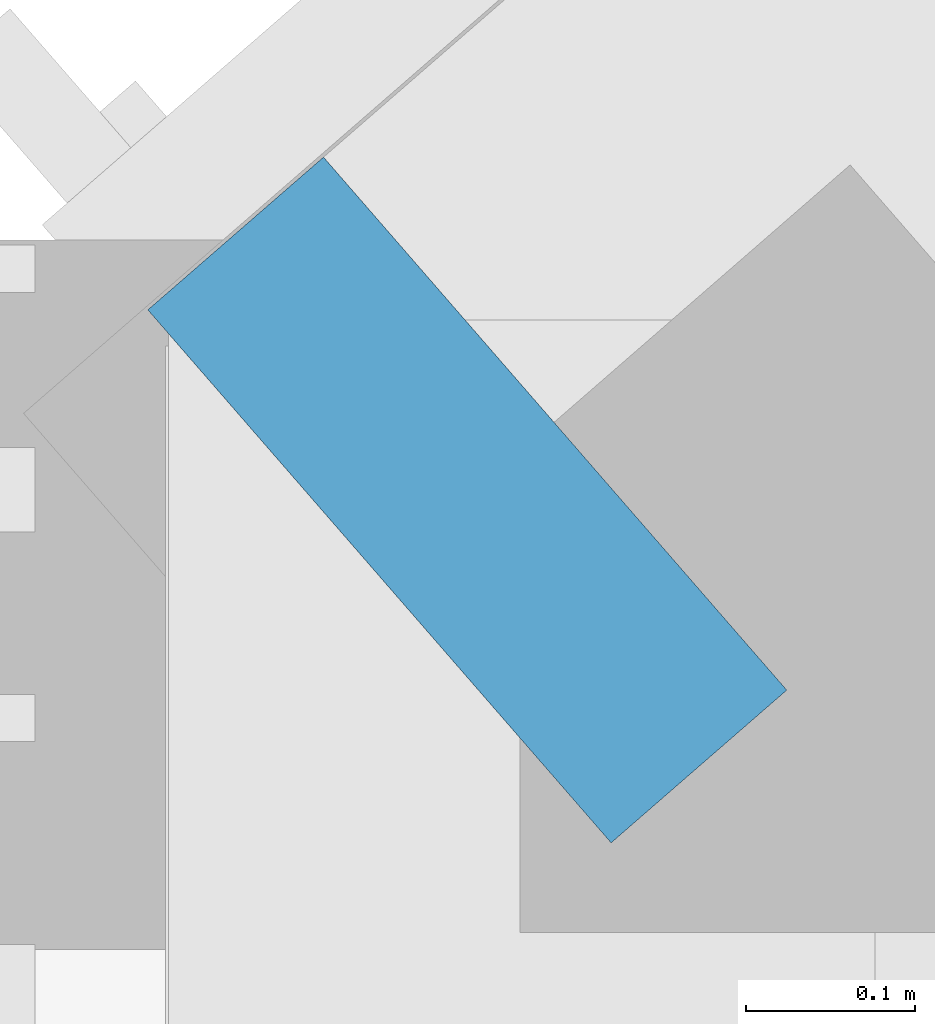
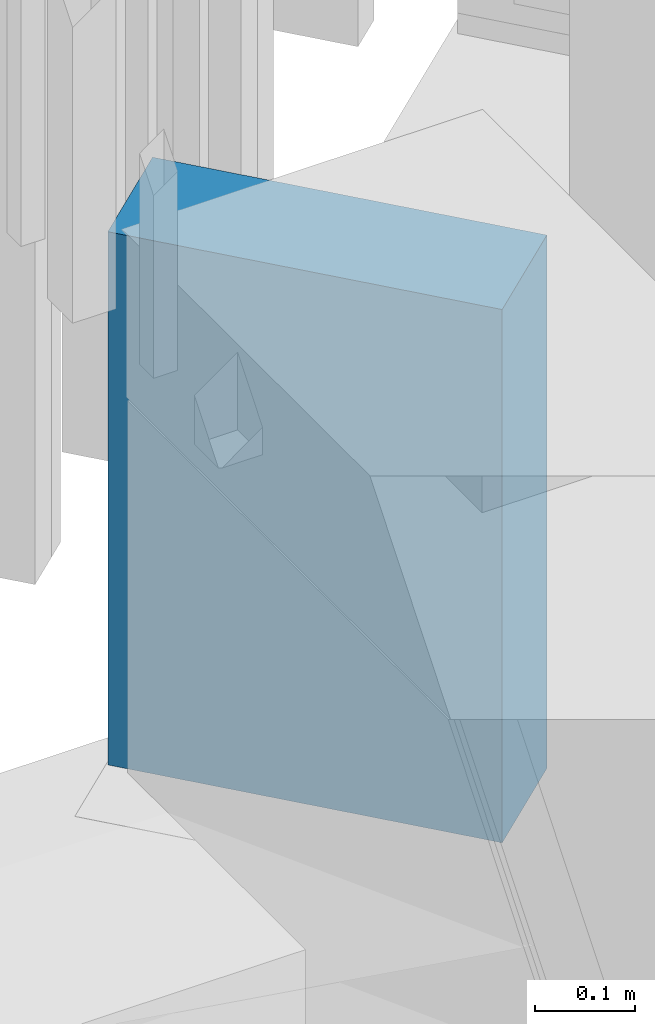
# One storey, part 25 of 390: 1 wall.
"""IFC2X3 building model written with IfcOpenShell, lengths in millimetres."""

from ifc_helpers import new_model, entity, si_unit, converted_unit, derived_unit, money_unit, direction, frame, origin_with_axes, place, context, subcontext, project, spatial, polyline, outline, extrude, material, layer, layer_set, layer_usage, type_object, element, save


model = new_model("IFC2X3")

# Units and contexts
model_context = context("Model", 3, precision=1e-05, world=origin_with_axes(), true_north=direction((0.0, 1.0)))
body_context = subcontext(model_context, "Body", "Model", "MODEL_VIEW")
ifc_project = project(units=[si_unit("LENGTHUNIT", "METRE", prefix="MILLI"), si_unit("AREAUNIT", "SQUARE_METRE"), si_unit("VOLUMEUNIT", "CUBIC_METRE"), converted_unit("PLANEANGLEUNIT", "DEGREE", entity("IfcPlaneAngleMeasure", 0.0174532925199), si_unit("PLANEANGLEUNIT", "RADIAN"), dimensions=[0, 0, 0, 0, 0, 0, 0]), si_unit("SOLIDANGLEUNIT", "STERADIAN"), money_unit("EUR"), converted_unit("TIMEUNIT", "Year", entity("IfcTimeMeasure", 31556926.0), si_unit("TIMEUNIT", "SECOND"), dimensions=[0, 0, 1, 0, 0, 0, 0]), si_unit("MASSUNIT", "GRAM", prefix="KILO"), si_unit("THERMODYNAMICTEMPERATUREUNIT", "DEGREE_CELSIUS"), si_unit("LUMINOUSINTENSITYUNIT", "LUMEN"), si_unit("ENERGYUNIT", "JOULE", prefix="MEGA"), derived_unit("THERMALCONDUCTANCEUNIT", [(si_unit("POWERUNIT", "WATT"), 1), (si_unit("LENGTHUNIT", "METRE"), -1), (si_unit("THERMODYNAMICTEMPERATUREUNIT", "KELVIN"), -1)]), derived_unit("SPECIFICHEATCAPACITYUNIT", [(si_unit("ENERGYUNIT", "JOULE"), 1), (si_unit("MASSUNIT", "GRAM", prefix="KILO"), -1), (si_unit("THERMODYNAMICTEMPERATUREUNIT", "KELVIN"), -1)]), derived_unit("MASSDENSITYUNIT", [(si_unit("MASSUNIT", "GRAM", prefix="KILO"), 1), (si_unit("VOLUMEUNIT", "CUBIC_METRE"), -1)])], contexts=[model_context])

# Site, building, storey
site_placement = place(None, origin_with_axes())
site = spatial("IfcSite", under=ifc_project, at=site_placement, Name="Site", CompositionType="ELEMENT")
building_placement = place(site_placement, origin_with_axes())
building = spatial("IfcBuilding", under=site, at=building_placement, Name="Building", CompositionType="ELEMENT")
storey_placement = place(building_placement, origin_with_axes())
storey = spatial("IfcBuildingStorey", under=building, at=storey_placement, Name="1 korrus", CompositionType="ELEMENT", Elevation=0.0)

# Wall
ifc_material_1 = material(Name="Krohv - Lubjakivi")
ifc_layer_1 = layer(ifc_material_1, 10.0, ventilated="UNKNOWN")
ifc_material_2 = material(Name="Raudbetoon - Konstruktsioon")
ifc_layer_2 = layer(ifc_material_2, 200.0, ventilated="UNKNOWN")
ifc_material_3 = material(Name="Membraan - Veekindel")
ifc_layer_3 = layer(ifc_material_3, 0.0, ventilated="UNKNOWN")
ifc_material_4 = material(Name="Soojustus - Plastik Kõva")
ifc_layer_4 = layer(ifc_material_4, 150.0, ventilated="UNKNOWN")
ifc_layer_5 = layer(ifc_material_4, 50.0, ventilated="UNKNOWN")
ifc_material_5 = material(Name="Plaat - Sein")
ifc_layer_6 = layer(ifc_material_5, 8.0, ventilated="UNKNOWN")
ifc_layer_set = layer_set([ifc_layer_1, ifc_layer_2, ifc_layer_3, ifc_layer_4, ifc_layer_5, ifc_layer_6], Name="VS-05")
ifc_layer_usage = layer_usage(ifc_layer_set, "AXIS2", "POSITIVE", 0.0)
wall_type = type_object("IfcWallType", Name="VS-05", PredefinedType="NOTDEFINED")
wall_placement = place(storey_placement, frame((122753.878946, 76053.0779879, 2210.0), z_axis=(0.0, 0.0, 1.0), x_axis=(0.754709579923, 0.656059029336, 0.0)))
element("IfcWallStandardCase", 1, at=wall_placement, inside=storey, type_object=wall_type, material=ifc_layer_usage, Name="VS-05", context=body_context, shape_type="SweptSolid", body=[
    extrude(outline(polyline([(0.0, 0.0), (137.792518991, 0.0), (137.792518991, 418.0), (0.0, 418.0), (0.0, 0.0)])), origin_with_axes(), (0.0, 0.0, 1.0), 652.38933253),
])

save(model, "model.ifc")
